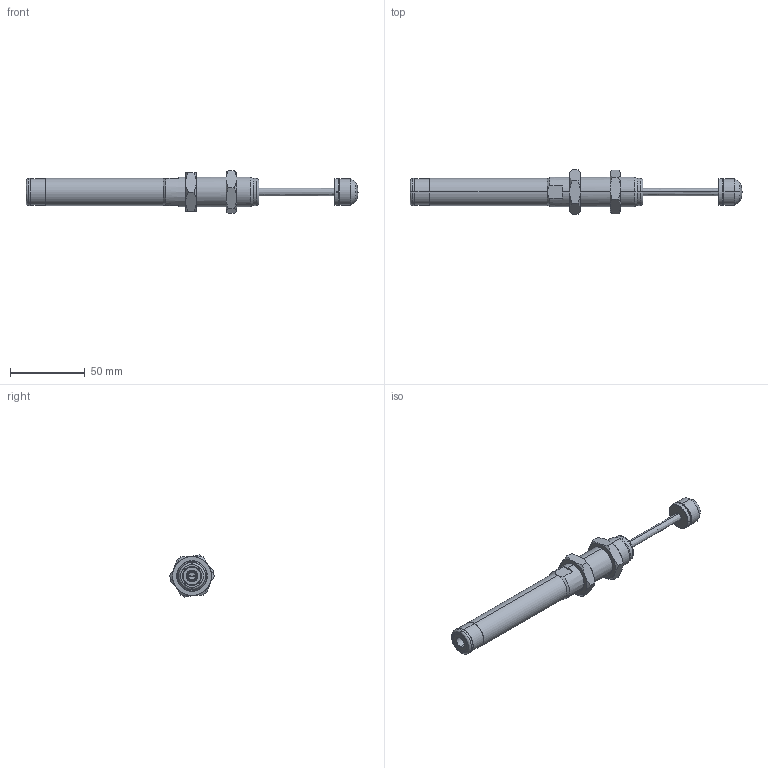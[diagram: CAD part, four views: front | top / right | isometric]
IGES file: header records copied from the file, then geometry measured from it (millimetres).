
Start section: SolidWorks IGES file using analytic representation for surfaces
Global section: file name: D:\IGS跡宒\AC2050-17K.IGS,1; native system: 5HSolidWorks 2013; preprocessor: SolidWorks 2013; author: Administrator; date: 160920.093624; units: inch
Bounding box: 222.3 x 30.02 x 28.42 mm (x, y, z)
Surface area: 15454.7 mm2 (no closed solid volume)
Topology: 0 solids, 0 shells, 111 faces, 1700 edges, 1699 vertices
Faces by surface type: revolution 78, bspline 33
